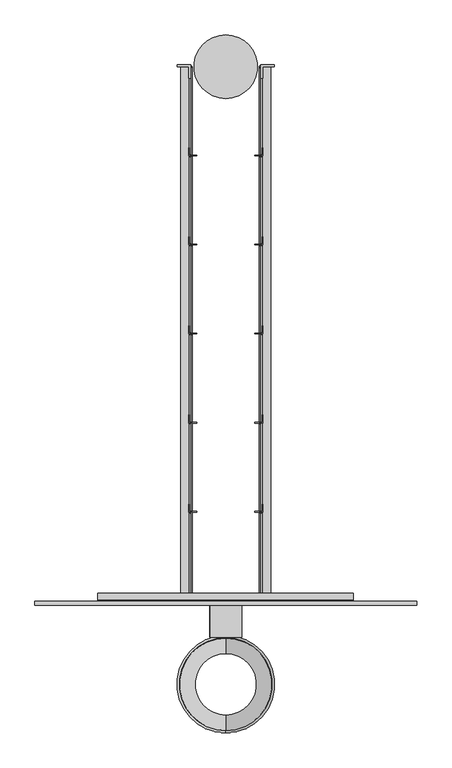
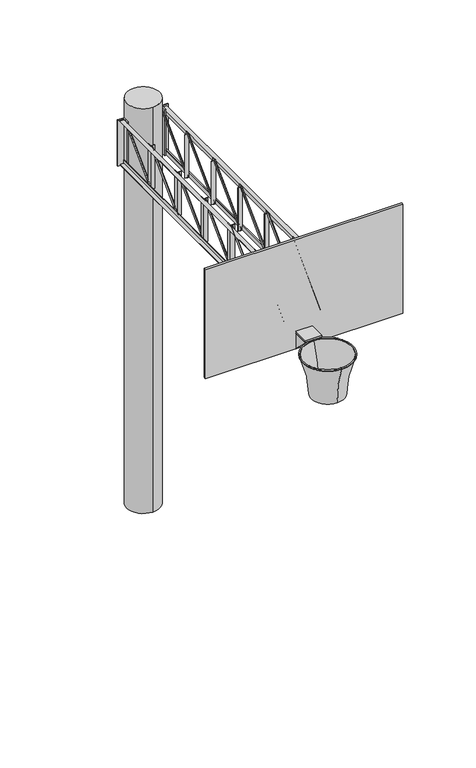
"""IFC4 building model written with IfcOpenShell, lengths in millimetres: proxy geometry, FDE_QE39_QE40_TabelaDeBasquete : QE39_LajeAlveolar."""

from ifc_helpers import new_model, si_unit, point, frame, frame_2d, origin, origin_2d, place, context, project, spatial, polyline, circle_curve, ellipse_curve, trimmed, segment, composite_curve, outline, extrude, source, transform, mapped, element, save
from ifc_brep_helpers import plane_surface, revolved_surface, advanced_brep


def specialty_equipment_e171445e(model_context):
    return source(origin(), model_context, "Body", "SolidModel", [
        extrude(outline(polyline([(-2482.0, 3180.0), (-2482.0, 3176.8), (-2516.8, 3176.8), (-2516.8, 3142.0), (-2520.0, 3142.0), (-2520.0, 3180.0), (-2482.0, 3180.0)])), frame((-602.5, 0.0, 0.0), z_axis=(1.0, 0.0, 0.0), x_axis=(0.0, 1.0, 0.0)), (0.0, 0.0, 1.0), 1205.0),
        extrude(outline(polyline([(-2482.0, 3600.0), (-2520.0, 3600.0), (-2520.0, 3638.0), (-2516.8, 3638.0), (-2516.8, 3603.2), (-2482.0, 3603.2), (-2482.0, 3600.0)])), frame((-602.5, 0.0, 0.0), z_axis=(1.0, 0.0, 0.0), x_axis=(0.0, 1.0, 0.0)), (0.0, 0.0, 1.0), 1205.0),
        extrude(outline(polyline([(-137.0, -2520.0), (-175.0, -2520.0), (-175.0, -2482.0), (-171.8, -2482.0), (-171.8, -2516.8), (-137.0, -2516.8), (-137.0, -2520.0)])), frame((0.0, 0.0, 3180.0), z_axis=(0.0, 0.0, 1.0), x_axis=(1.0, 0.0, 0.0)), (0.0, 0.0, 1.0), 420.0),
        extrude(outline(polyline([(137.0, -2520.0), (137.0, -2516.8), (171.8, -2516.8), (171.8, -2482.0), (175.0, -2482.0), (175.0, -2520.0), (137.0, -2520.0)])), frame((0.0, 0.0, 3180.0), z_axis=(0.0, 0.0, 1.0), x_axis=(1.0, 0.0, 0.0)), (0.0, 0.0, 1.0), 420.0),
        extrude(outline(polyline([(-137.0, -2100.0), (-175.0, -2100.0), (-175.0, -2062.0), (-171.8, -2062.0), (-171.8, -2096.8), (-137.0, -2096.8), (-137.0, -2100.0)])), frame((0.0, 0.0, 3180.0), z_axis=(0.0, 0.0, 1.0), x_axis=(1.0, 0.0, 0.0)), (0.0, 0.0, 1.0), 420.0),
        extrude(outline(polyline([(137.0, -2100.0), (137.0, -2096.8), (171.8, -2096.8), (171.8, -2062.0), (175.0, -2062.0), (175.0, -2100.0), (137.0, -2100.0)])), frame((0.0, 0.0, 3180.0), z_axis=(0.0, 0.0, 1.0), x_axis=(1.0, 0.0, 0.0)), (0.0, 0.0, 1.0), 420.0),
        extrude(outline(polyline([(-137.0, -1680.0), (-175.0, -1680.0), (-175.0, -1642.0), (-171.8, -1642.0), (-171.8, -1676.8), (-137.0, -1676.8), (-137.0, -1680.0)])), frame((0.0, 0.0, 3180.0), z_axis=(0.0, 0.0, 1.0), x_axis=(1.0, 0.0, 0.0)), (0.0, 0.0, 1.0), 420.0),
        extrude(outline(polyline([(137.0, -1680.0), (137.0, -1676.8), (171.8, -1676.8), (171.8, -1642.0), (175.0, -1642.0), (175.0, -1680.0), (137.0, -1680.0)])), frame((0.0, 0.0, 3180.0), z_axis=(0.0, 0.0, 1.0), x_axis=(1.0, 0.0, 0.0)), (0.0, 0.0, 1.0), 420.0),
        extrude(outline(polyline([(-137.0, -1260.0), (-175.0, -1260.0), (-175.0, -1222.0), (-171.8, -1222.0), (-171.8, -1256.8), (-137.0, -1256.8), (-137.0, -1260.0)])), frame((0.0, 0.0, 3180.0), z_axis=(0.0, 0.0, 1.0), x_axis=(1.0, 0.0, 0.0)), (0.0, 0.0, 1.0), 420.0),
        extrude(outline(polyline([(137.0, -1260.0), (137.0, -1256.8), (171.8, -1256.8), (171.8, -1222.0), (175.0, -1222.0), (175.0, -1260.0), (137.0, -1260.0)])), frame((0.0, 0.0, 3180.0), z_axis=(0.0, 0.0, 1.0), x_axis=(1.0, 0.0, 0.0)), (0.0, 0.0, 1.0), 420.0),
        extrude(outline(polyline([(-137.0, -840.0), (-175.0, -840.0), (-175.0, -802.0), (-171.8, -802.0), (-171.8, -836.8), (-137.0, -836.8), (-137.0, -840.0)])), frame((0.0, 0.0, 3180.0), z_axis=(0.0, 0.0, 1.0), x_axis=(1.0, 0.0, 0.0)), (0.0, 0.0, 1.0), 420.0),
        extrude(outline(polyline([(137.0, -840.0), (137.0, -836.8), (171.8, -836.8), (171.8, -802.0), (175.0, -802.0), (175.0, -840.0), (137.0, -840.0)])), frame((0.0, 0.0, 3180.0), z_axis=(0.0, 0.0, 1.0), x_axis=(1.0, 0.0, 0.0)), (0.0, 0.0, 1.0), 420.0),
        extrude(outline(polyline([(-137.0, -420.0), (-175.0, -420.0), (-175.0, -382.0), (-171.8, -382.0), (-171.8, -416.8), (-137.0, -416.8), (-137.0, -420.0)])), frame((0.0, 0.0, 3180.0), z_axis=(0.0, 0.0, 1.0), x_axis=(1.0, 0.0, 0.0)), (0.0, 0.0, 1.0), 420.0),
        extrude(outline(polyline([(137.0, -420.0), (137.0, -416.8), (171.8, -416.8), (171.8, -382.0), (175.0, -382.0), (175.0, -420.0), (137.0, -420.0)])), frame((0.0, 0.0, 3180.0), z_axis=(0.0, 0.0, 1.0), x_axis=(1.0, 0.0, 0.0)), (0.0, 0.0, 1.0), 420.0),
        extrude(outline(polyline([(-229.5, 9.5), (-165.5, 9.5), (-165.5, -54.5), (-175.0, -54.5), (-175.0, 0.0), (-229.5, 0.0), (-229.5, 9.5)])), frame((0.0, 0.0, 3169.0), z_axis=(0.0, 0.0, 1.0), x_axis=(1.0, 0.0, 0.0)), (0.0, 0.0, 1.0), 442.0),
        extrude(outline(polyline([(229.5, 9.5), (229.5, 0.0), (175.0, 0.0), (175.0, -54.5), (165.5, -54.5), (165.5, 9.5), (229.5, 9.5)])), frame((0.0, 0.0, 3169.0), z_axis=(0.0, 0.0, 1.0), x_axis=(1.0, 0.0, 0.0)), (0.0, 0.0, 1.0), 442.0),
        extrude(outline(polyline([(3562.0, -175.0), (3600.0, -175.0), (3600.0, -213.0), (3596.8, -213.0), (3596.8, -178.2), (3562.0, -178.2), (3562.0, -175.0)])), frame((0.0, -2520.0, 0.0), z_axis=(0.0, 1.0, 0.0), x_axis=(0.0, 0.0, 1.0)), (0.0, 0.0, 1.0), 2520.0),
        extrude(outline(polyline([(3562.0, 175.0), (3562.0, 178.2), (3596.8, 178.2), (3596.8, 213.0), (3600.0, 213.0), (3600.0, 175.0), (3562.0, 175.0)])), frame((0.0, -2520.0, 0.0), z_axis=(0.0, 1.0, 0.0), x_axis=(0.0, 0.0, 1.0)), (0.0, 0.0, 1.0), 2520.0),
        extrude(outline(polyline([(3218.0, -175.0), (3218.0, -178.2), (3183.2, -178.2), (3183.2, -213.0), (3180.0, -213.0), (3180.0, -175.0), (3218.0, -175.0)])), frame((0.0, -2520.0, 0.0), z_axis=(0.0, 1.0, 0.0), x_axis=(0.0, 0.0, 1.0)), (0.0, 0.0, 1.0), 2520.0),
        extrude(outline(polyline([(3218.0, 175.0), (3180.0, 175.0), (3180.0, 213.0), (3183.2, 213.0), (3183.2, 178.2), (3218.0, 178.2), (3218.0, 175.0)])), frame((0.0, -2520.0, 0.0), z_axis=(0.0, 1.0, 0.0), x_axis=(0.0, 0.0, 1.0)), (0.0, 0.0, 1.0), 2520.0),
        extrude(outline(composite_curve([segment(trimmed(circle_curve(origin_2d(), 150.0), [point((0.0, 150.0))], [point((0.0, -150.0))], False, "CARTESIAN"), True, "CONTINUOUS"), segment(trimmed(circle_curve(origin_2d(), 150.0), [point((0.0, -150.0))], [point((0.0, 150.0))], False, "CARTESIAN"), True, "CONTINUOUS")], self_intersect=False)), frame((0.0, 0.0, -150.0), z_axis=(0.0, 0.0, 1.0), x_axis=(1.0, 0.0, 0.0)), (0.0, 0.0, 1.0), 3900.0),
        extrude(outline(polyline([(-73.9310412, -2540.0), (75.2, -2540.0), (75.2, -2690.0), (-73.9310412, -2690.0), (-73.9310412, -2540.0)])), frame((0.0, 0.0, 3050.0), z_axis=(0.0, 0.0, 1.0), x_axis=(1.0, 0.0, 0.0)), (0.0, 0.0, 1.0), 18.0),
        extrude(outline(polyline([(-2540.0, 3050.0), (-2540.0, 2900.0), (-2690.0, 3050.0), (-2540.0, 3050.0)])), frame((-74.8, 0.0, 0.0), z_axis=(1.0, 0.0, 0.0), x_axis=(0.0, 1.0, 0.0)), (0.0, 0.0, 1.0), 2.0),
        extrude(outline(polyline([(-2540.0, 3050.0), (-2540.0, 2900.0), (-2690.0, 3050.0), (-2540.0, 3050.0)])), frame((72.2, 0.0, 0.0), z_axis=(1.0, 0.0, 0.0), x_axis=(0.0, 1.0, 0.0)), (0.0, 0.0, 1.0), 3.0),
        advanced_brep(
        [(0.2716802, -3141.5314, 3044.3298092), (0.2716802, -2681.5314, 3044.3298092), (0.2716802, -2691.5314, 3044.3298092), (0.2716802, -3131.5314, 3044.3298092)],
        [
            (0, 1, circle_curve(frame((0.2716802, -2911.5314, 3044.3298092), z_axis=(0.0, 0.0, 1.0), x_axis=(0.0, 1.0, 0.0)), 230.0)),
            (1, 2, circle_curve(frame((0.2716802, -2686.5314, 3044.3298092), z_axis=(1.0, 0.0, 0.0), x_axis=(0.0, 1.0, 0.0)), 5.0)),
            (2, 3, circle_curve(frame((0.2716802, -2911.5314, 3044.3298092), z_axis=(0.0, 0.0, -1.0), x_axis=(0.0, 1.0, 0.0)), 220.0)),
            (3, 0, circle_curve(frame((0.2716802, -3136.5314, 3044.3298092), z_axis=(1.0, 0.0, 0.0), x_axis=(0.0, -1.0, 0.0)), 5.0)),
            (2, 1, circle_curve(frame((0.2716802, -2686.5314, 3044.3298092), z_axis=(1.0, 0.0, 0.0), x_axis=(0.0, 1.0, 0.0)), 5.0)),
            (0, 3, circle_curve(frame((0.2716802, -3136.5314, 3044.3298092), z_axis=(1.0, 0.0, 0.0), x_axis=(0.0, -1.0, 0.0)), 5.0)),
            (1, 0, circle_curve(frame((0.2716802, -2911.5314, 3044.3298092), z_axis=(0.0, 0.0, 1.0), x_axis=(0.0, -1.0, 0.0)), 230.0)),
            (3, 2, circle_curve(frame((0.2716802, -2911.5314, 3044.3298092), z_axis=(0.0, 0.0, -1.0), x_axis=(0.0, -1.0, 0.0)), 220.0)),
        ],
        [
            revolved_surface(trimmed(ellipse_curve(frame((0.2716802, -2686.5314, 3044.3298092), z_axis=(-1.0, 0.0, 0.0), x_axis=(0.0, 1.0, 0.0)), 5.0, 5.0), [point((0.2716802, -2691.5314, 3044.3298092))], [point((0.2716802, -2681.5314, 3044.3298092))], True, "CARTESIAN"), (0.2716802, -2911.5314, 3210.3899891), (0.0, 0.0, -1.0)),
            revolved_surface(trimmed(ellipse_curve(frame((0.2716802, -2686.5314, 3044.3298092), z_axis=(-1.0, 0.0, 0.0), x_axis=(0.0, 1.0, 0.0)), 5.0, 5.0), [point((0.2716802, -2681.5314, 3044.3298092))], [point((0.2716802, -2691.5314, 3044.3298092))], True, "CARTESIAN"), (0.2716802, -2911.5314, 3210.3899891), (0.0, 0.0, -1.0)),
            revolved_surface(trimmed(ellipse_curve(frame((0.2716802, -3136.5314, 3044.3298092), z_axis=(1.0, 0.0, 0.0), x_axis=(0.0, -1.0, 0.0)), 5.0, 5.0), [point((0.2716802, -3131.5314, 3044.3298092))], [point((0.2716802, -3141.5314, 3044.3298092))], True, "CARTESIAN"), (0.2716802, -2911.5314, 3210.3899891), (0.0, 0.0, -1.0)),
            revolved_surface(trimmed(ellipse_curve(frame((0.2716802, -3136.5314, 3044.3298092), z_axis=(1.0, 0.0, 0.0), x_axis=(0.0, -1.0, 0.0)), 5.0, 5.0), [point((0.2716802, -3141.5314, 3044.3298092))], [point((0.2716802, -3131.5314, 3044.3298092))], True, "CARTESIAN"), (0.2716802, -2911.5314, 3210.3899891), (0.0, 0.0, -1.0)),
        ],
        [
            (0, [[1, 2, 3, 4]]),
            (1, [[-3, 5, -1, 6]]),
            (2, [[7, -4, 8, -2]]),
            (3, [[-8, -6, -7, -5]]),
        ],
    ),
        extrude(outline(polyline([(900.2, -2520.0), (900.2, -2540.0), (-899.8, -2540.0), (-899.8, -2520.0), (900.2, -2520.0)])), frame((0.0, 0.0, 2900.0), z_axis=(0.0, 0.0, 1.0), x_axis=(1.0, 0.0, 0.0)), (0.0, 0.0, 1.0), 1050.0),
        advanced_brep(
        [(0.2, -2762.2875334, 2668.6700903), (0.2, -3062.2875334, 2668.6700903), (0.2, -3136.2118556, 3043.6700903), (0.2, -2688.3632113, 3043.6700903), (0.2, -2767.2876942, 2668.6700903), (0.2, -3057.2873727, 2668.6700903), (0.2, -2693.7830904, 3043.6700903), (0.2, -3130.7919765, 3043.6700903)],
        [
            (0, 1, circle_curve(frame((0.2, -2912.2875334, 2668.6700903), z_axis=(0.0, 0.0, 1.0), x_axis=(0.0, -1.0, 0.0)), 150.0)),
            (1, 2, circle_curve(frame((0.2, -4011.672211, 2676.3028476), z_axis=(1.0, 0.0, 0.0), x_axis=(0.0, 0.0, 1.0)), 949.4153596)),
            (2, 3, circle_curve(frame((0.2, -2912.2875334, 3043.6700903), z_axis=(0.0, 0.0, -1.0), x_axis=(0.0, -1.0, 0.0)), 223.9243221)),
            (3, 0, circle_curve(frame((0.2, -1812.9028558, 2676.3028476), z_axis=(1.0, 0.0, 0.0), x_axis=(0.0, 0.0, 1.0)), 949.4153596)),
            (1, 0, circle_curve(frame((0.2, -2912.2875334, 2668.6700903), z_axis=(0.0, 0.0, 1.0), x_axis=(0.0, -1.0, 0.0)), 150.0)),
            (3, 2, circle_curve(frame((0.2, -2912.2875334, 3043.6700903), z_axis=(0.0, 0.0, -1.0), x_axis=(0.0, -1.0, 0.0)), 223.9243221)),
            (4, 5, circle_curve(frame((0.2, -2912.2875334, 2668.6700903), z_axis=(0.0, 0.0, 1.0), x_axis=(0.0, -1.0, 0.0)), 144.9998393)),
            (5, 1),
            (0, 4),
            (5, 4, circle_curve(frame((0.2, -2912.2875334, 2668.6700903), z_axis=(0.0, 0.0, 1.0), x_axis=(0.0, -1.0, 0.0)), 144.9998393)),
            (6, 7, circle_curve(frame((0.2, -2912.2875334, 3043.6700903), z_axis=(0.0, 0.0, 1.0), x_axis=(0.0, -1.0, 0.0)), 218.5044431)),
            (7, 5, circle_curve(frame((0.2, -4011.672211, 2676.3028476), z_axis=(-1.0, 0.0, 0.0), x_axis=(0.0, 0.0, 1.0)), 954.4153596)),
            (4, 6, circle_curve(frame((0.2, -1812.9028558, 2676.3028476), z_axis=(-1.0, 0.0, 0.0), x_axis=(0.0, 0.0, 1.0)), 954.4153596)),
            (7, 6, circle_curve(frame((0.2, -2912.2875334, 3043.6700903), z_axis=(0.0, 0.0, 1.0), x_axis=(0.0, -1.0, 0.0)), 218.5044431)),
            (2, 7),
            (6, 3),
        ],
        [
            revolved_surface(trimmed(ellipse_curve(frame((0.2, -4011.672211, 2676.3028476), z_axis=(-1.0, 0.0, 0.0), x_axis=(0.0, 0.0, 1.0)), 949.4153596, 949.4153596), [point((0.2, -3136.2118556, 3043.6700903))], [point((0.2, -3062.2875334, 2668.6700903))], True, "CARTESIAN"), (0.2, -2912.2875334, 3043.6700903), (0.0, 0.0, -1.0)),
            plane_surface(frame((0.2, -2912.2875334, 2668.6700903), z_axis=(0.0, 0.0, -1.0), x_axis=(0.0, -1.0, 0.0))),
            revolved_surface(trimmed(ellipse_curve(frame((0.2, -4011.672211, 2676.3028476), z_axis=(1.0, 0.0, 0.0), x_axis=(0.0, 0.0, 1.0)), 954.4153596, 954.4153596), [point((0.2, -3057.2873727, 2668.6700903))], [point((0.2, -3130.7919765, 3043.6700903))], True, "CARTESIAN"), (0.2, -2912.2875334, 3043.6700903), (0.0, 0.0, -1.0)),
            plane_surface(frame((0.2, -2912.2875334, 3043.6700903), z_axis=(0.0, 0.0, 1.0), x_axis=(0.0, -1.0, 0.0))),
        ],
        [
            (0, [[1, 2, 3, 4]]),
            (0, [[5, -4, 6, -2]]),
            (1, [[7, 8, -1, 9]]),
            (1, [[10, -9, -5, -8]]),
            (2, [[11, 12, -7, 13]]),
            (2, [[14, -13, -10, -12]]),
            (3, [[-3, 15, -11, 16]]),
            (3, [[-6, -16, -14, -15]]),
        ],
    ),
        extrude(outline(composite_curve([segment(trimmed(circle_curve(frame_2d((-9.7, 0.0)), 6.5), [point((-9.7, -6.5))], [point((-9.7, 6.5))], False, "CARTESIAN"), True, "CONTINUOUS"), segment(trimmed(circle_curve(frame_2d((-9.7, 0.0)), 6.5), [point((-9.7, 6.5))], [point((-9.7, -6.5))], False, "CARTESIAN"), True, "CONTINUOUS")], self_intersect=False)), frame((-175.0, -2520.0, 3180.0), z_axis=(0.0, 0.707106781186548, 0.707106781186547), x_axis=(-1.0, 0.0, 0.0)), (0.0, 0.0, 1.0), 593.9696962),
        extrude(outline(composite_curve([segment(trimmed(circle_curve(frame_2d((-9.7, 0.0)), 6.5), [point((-9.7, 6.5))], [point((-9.7, -6.5))], False, "CARTESIAN"), True, "CONTINUOUS"), segment(trimmed(circle_curve(frame_2d((-9.7, 0.0)), 6.5), [point((-9.7, -6.5))], [point((-9.7, 6.5))], False, "CARTESIAN"), True, "CONTINUOUS")], self_intersect=False)), frame((175.0, -2520.0, 3180.0), z_axis=(0.0, 0.707106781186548, 0.707106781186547), x_axis=(1.0, 0.0, 0.0)), (0.0, 0.0, 1.0), 593.9696962),
        extrude(outline(composite_curve([segment(trimmed(circle_curve(frame_2d((-9.7, 0.0)), 6.5), [point((-9.7, -6.5))], [point((-9.7, 6.5))], False, "CARTESIAN"), True, "CONTINUOUS"), segment(trimmed(circle_curve(frame_2d((-9.7, 0.0)), 6.5), [point((-9.7, 6.5))], [point((-9.7, -6.5))], False, "CARTESIAN"), True, "CONTINUOUS")], self_intersect=False)), frame((-175.0, -2100.0, 3180.0), z_axis=(0.0, 0.707106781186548, 0.707106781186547), x_axis=(-1.0, 0.0, 0.0)), (0.0, 0.0, 1.0), 593.9696962),
        extrude(outline(composite_curve([segment(trimmed(circle_curve(frame_2d((-9.7, 0.0)), 6.5), [point((-9.7, 6.5))], [point((-9.7, -6.5))], False, "CARTESIAN"), True, "CONTINUOUS"), segment(trimmed(circle_curve(frame_2d((-9.7, 0.0)), 6.5), [point((-9.7, -6.5))], [point((-9.7, 6.5))], False, "CARTESIAN"), True, "CONTINUOUS")], self_intersect=False)), frame((175.0, -2100.0, 3180.0), z_axis=(0.0, 0.707106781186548, 0.707106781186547), x_axis=(1.0, 0.0, 0.0)), (0.0, 0.0, 1.0), 593.9696962),
        extrude(outline(composite_curve([segment(trimmed(circle_curve(frame_2d((-9.7, 0.0)), 6.5), [point((-9.7, -6.5))], [point((-9.7, 6.5))], False, "CARTESIAN"), True, "CONTINUOUS"), segment(trimmed(circle_curve(frame_2d((-9.7, 0.0)), 6.5), [point((-9.7, 6.5))], [point((-9.7, -6.5))], False, "CARTESIAN"), True, "CONTINUOUS")], self_intersect=False)), frame((-175.0, -1680.0, 3180.0), z_axis=(0.0, 0.707106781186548, 0.707106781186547), x_axis=(-1.0, 0.0, 0.0)), (0.0, 0.0, 1.0), 593.9696962),
        extrude(outline(composite_curve([segment(trimmed(circle_curve(frame_2d((-9.7, 0.0)), 6.5), [point((-9.7, 6.5))], [point((-9.7, -6.5))], False, "CARTESIAN"), True, "CONTINUOUS"), segment(trimmed(circle_curve(frame_2d((-9.7, 0.0)), 6.5), [point((-9.7, -6.5))], [point((-9.7, 6.5))], False, "CARTESIAN"), True, "CONTINUOUS")], self_intersect=False)), frame((175.0, -1680.0, 3180.0), z_axis=(0.0, 0.707106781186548, 0.707106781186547), x_axis=(1.0, 0.0, 0.0)), (0.0, 0.0, 1.0), 593.9696962),
        extrude(outline(composite_curve([segment(trimmed(circle_curve(frame_2d((-9.7, 0.0)), 6.5), [point((-9.7, -6.5))], [point((-9.7, 6.5))], False, "CARTESIAN"), True, "CONTINUOUS"), segment(trimmed(circle_curve(frame_2d((-9.7, 0.0)), 6.5), [point((-9.7, 6.5))], [point((-9.7, -6.5))], False, "CARTESIAN"), True, "CONTINUOUS")], self_intersect=False)), frame((-175.0, -1260.0, 3180.0), z_axis=(0.0, 0.707106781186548, 0.707106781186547), x_axis=(-1.0, 0.0, 0.0)), (0.0, 0.0, 1.0), 593.9696962),
        extrude(outline(composite_curve([segment(trimmed(circle_curve(frame_2d((-9.7, 0.0)), 6.5), [point((-9.7, 6.5))], [point((-9.7, -6.5))], False, "CARTESIAN"), True, "CONTINUOUS"), segment(trimmed(circle_curve(frame_2d((-9.7, 0.0)), 6.5), [point((-9.7, -6.5))], [point((-9.7, 6.5))], False, "CARTESIAN"), True, "CONTINUOUS")], self_intersect=False)), frame((175.0, -1260.0, 3180.0), z_axis=(0.0, 0.707106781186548, 0.707106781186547), x_axis=(1.0, 0.0, 0.0)), (0.0, 0.0, 1.0), 593.9696962),
        extrude(outline(composite_curve([segment(trimmed(circle_curve(frame_2d((-9.7, 0.0)), 6.5), [point((-9.7, -6.5))], [point((-9.7, 6.5))], False, "CARTESIAN"), True, "CONTINUOUS"), segment(trimmed(circle_curve(frame_2d((-9.7, 0.0)), 6.5), [point((-9.7, 6.5))], [point((-9.7, -6.5))], False, "CARTESIAN"), True, "CONTINUOUS")], self_intersect=False)), frame((-175.0, -840.0, 3180.0), z_axis=(0.0, 0.707106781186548, 0.707106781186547), x_axis=(-1.0, 0.0, 0.0)), (0.0, 0.0, 1.0), 593.9696962),
        extrude(outline(composite_curve([segment(trimmed(circle_curve(frame_2d((-9.7, 0.0)), 6.5), [point((-9.7, 6.5))], [point((-9.7, -6.5))], False, "CARTESIAN"), True, "CONTINUOUS"), segment(trimmed(circle_curve(frame_2d((-9.7, 0.0)), 6.5), [point((-9.7, -6.5))], [point((-9.7, 6.5))], False, "CARTESIAN"), True, "CONTINUOUS")], self_intersect=False)), frame((175.0, -840.0, 3180.0), z_axis=(0.0, 0.707106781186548, 0.707106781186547), x_axis=(1.0, 0.0, 0.0)), (0.0, 0.0, 1.0), 593.9696962),
        extrude(outline(composite_curve([segment(trimmed(circle_curve(frame_2d((-9.7, 0.0)), 6.5), [point((-9.7, -6.5))], [point((-9.7, 6.5))], False, "CARTESIAN"), True, "CONTINUOUS"), segment(trimmed(circle_curve(frame_2d((-9.7, 0.0)), 6.5), [point((-9.7, 6.5))], [point((-9.7, -6.5))], False, "CARTESIAN"), True, "CONTINUOUS")], self_intersect=False)), frame((-175.0, -420.0, 3180.0), z_axis=(0.0, 0.707106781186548, 0.707106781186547), x_axis=(-1.0, 0.0, 0.0)), (0.0, 0.0, 1.0), 593.9696962),
        extrude(outline(composite_curve([segment(trimmed(circle_curve(frame_2d((-9.7, 0.0)), 6.5), [point((-9.7, 6.5))], [point((-9.7, -6.5))], False, "CARTESIAN"), True, "CONTINUOUS"), segment(trimmed(circle_curve(frame_2d((-9.7, 0.0)), 6.5), [point((-9.7, -6.5))], [point((-9.7, 6.5))], False, "CARTESIAN"), True, "CONTINUOUS")], self_intersect=False)), frame((175.0, -420.0, 3180.0), z_axis=(0.0, 0.707106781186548, 0.707106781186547), x_axis=(1.0, 0.0, 0.0)), (0.0, 0.0, 1.0), 593.9696962),
    ])


if __name__ == "__main__":
    model = new_model("IFC4")
    model_context = context("Model", 3, world=origin())
    ifc_project = project(units=[si_unit("LENGTHUNIT", "METRE", prefix="MILLI")], contexts=[model_context])
    site = spatial("IfcSite", under=ifc_project)
    building = spatial("IfcBuilding", under=site)
    placement = place(None, origin())
    specialty_equipment_shape = specialty_equipment_e171445e(model_context)
    element("IfcBuildingElementProxy", 1, Name="FDE_QE39_QE40_TabelaDeBasquete : QE39_LajeAlveolar", ObjectType="FDE_QE39_QE40_TabelaDeBasquete : QE39_LajeAlveolar", at=placement, inside=building, context=model_context, shape_type="MappedRepresentation", body=[
        mapped(specialty_equipment_shape, transform((0.0, 0.0, 0.0), x_axis=(1.0, 0.0, 0.0), y_axis=(0.0, 1.0, 0.0), z_axis=(0.0, 0.0, 1.0))),
    ])
    save(model, "model.ifc")
